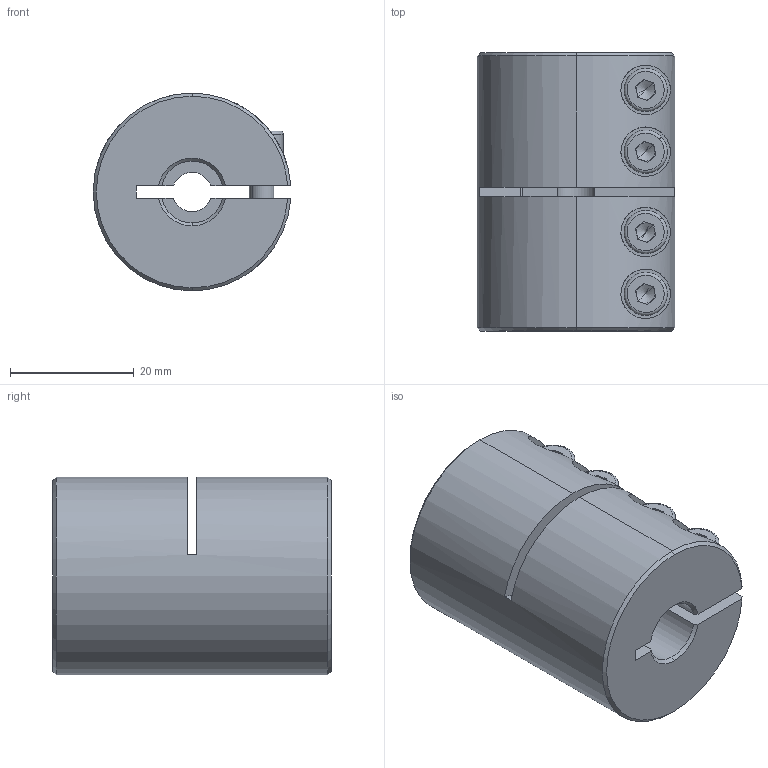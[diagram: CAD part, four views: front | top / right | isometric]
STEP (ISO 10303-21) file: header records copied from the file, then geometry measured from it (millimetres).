
FILE_DESCRIPTION (( 'STEP AP214' ), '1' );
FILE_NAME ('LL-B-D32L45-6.35-10½¨Ä£.STEP', '2022-07-21T06:47:31', ( '' ), ( '' ), 'SwSTEP 2.0', 'SolidWorks 2022', '' );
FILE_SCHEMA (( 'AUTOMOTIVE_DESIGN' ));
Length unit declared in the file: millimetre
Products named in the file (1): LL-B-D32L45-6.35-10膘耀
Bounding box: 31.97 x 45 x 32 mm (x, y, z)
Volume: 31026.4 mm3; surface area: 10774.2 mm2
Topology: 1 solids, 1 shells, 193 faces, 492 edges, 309 vertices
Faces by surface type: plane 88, cylinder 77, cone 20, torus 8
Entity records: 6357 total; most frequent: CARTESIAN_POINT 1583, DIRECTION 1037, ORIENTED_EDGE 968, EDGE_CURVE 484, AXIS2_PLACEMENT_3D 403, VERTEX_POINT 309, LINE 231, VECTOR 231
